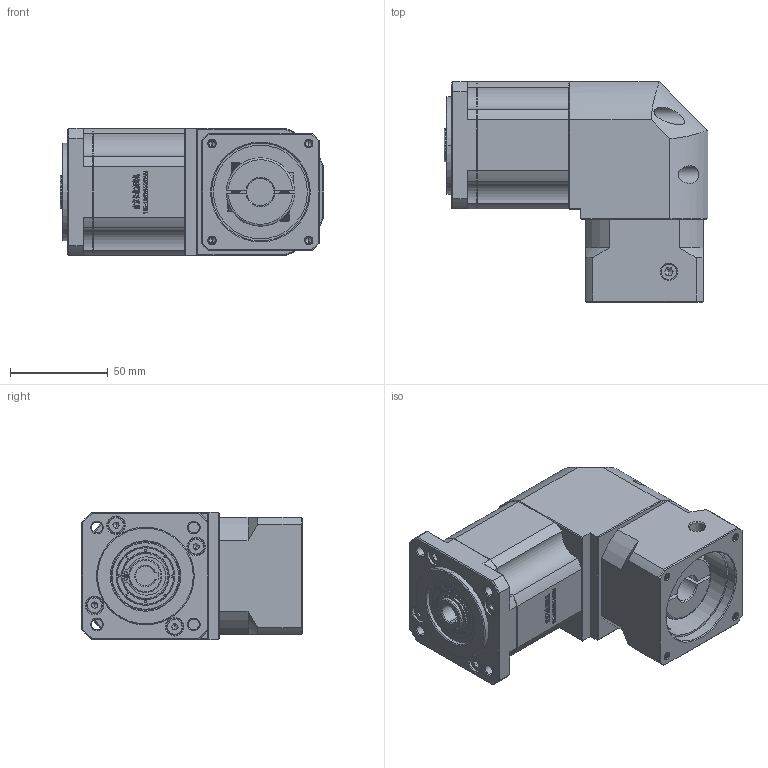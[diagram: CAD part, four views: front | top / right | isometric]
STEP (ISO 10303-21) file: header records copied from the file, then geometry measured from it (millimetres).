
FILE_DESCRIPTION (( 'STEP AP214' ), '1' );
FILE_NAME ('ZBR60-K10-L2-14-50-70-M4.STEP', '2022-04-19T08:50:55', ( '' ), ( 'Microsoft' ), 'SwSTEP 2.0', 'SolidWorks 2016', '' );
FILE_SCHEMA (( 'AUTOMOTIVE_DESIGN' ));
Length unit declared in the file: millimetre
Products named in the file (1): ZBR60-K10-L2-14-50-70-M4
Bounding box: 135 x 112.7 x 65 mm (x, y, z)
Volume: 579217.7 mm3; surface area: 80397.4 mm2
Topology: 5 solids, 5 shells, 2782 faces, 7515 edges, 4872 vertices
Faces by surface type: plane 1469, bspline 584, cylinder 385, cone 324, torus 20
Entity records: 147041 total; most frequent: CARTESIAN_POINT 50642, ORIENTED_EDGE 14974, DIRECTION 11441, EDGE_CURVE 7487, VECTOR 4987, LINE 4987, VERTEX_POINT 4872, AXIS2_PLACEMENT_3D 3227
